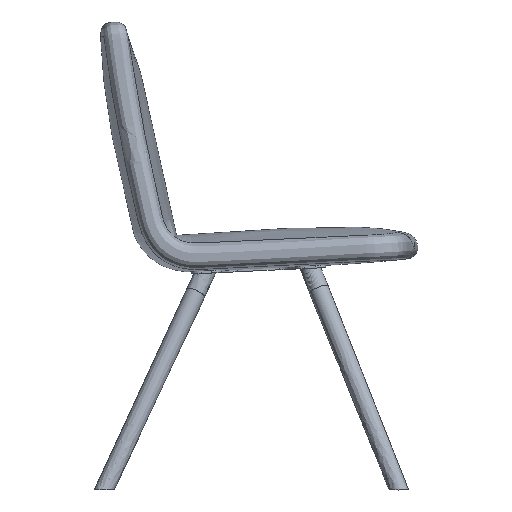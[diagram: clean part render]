
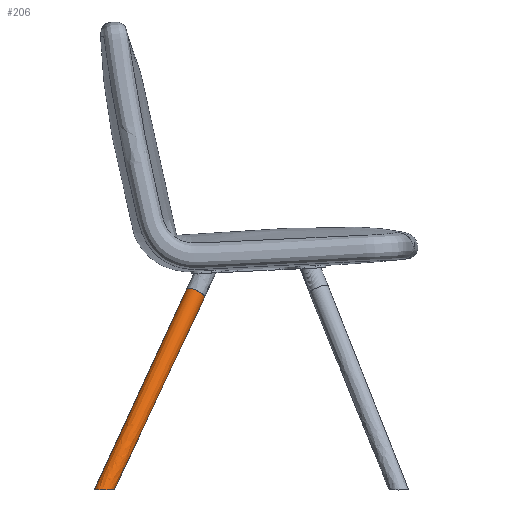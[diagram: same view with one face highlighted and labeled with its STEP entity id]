
A CAD part, left-side view. The second image highlights one B-rep face of the part: STEP entity #206.
In plain terms, the highlighted free-form (B-spline) face has degree [3, 2] with [4, 7] control points.
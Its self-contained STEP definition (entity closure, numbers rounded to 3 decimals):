
#34=(
BOUNDED_CURVE()
B_SPLINE_CURVE(2,(#5012,#5013,#5014,#5015,#5016,#5017,#5018),
 .UNSPECIFIED.,.F.,.F.)
B_SPLINE_CURVE_WITH_KNOTS((3,2,2,3),(0.,10.536,38.025,
65.514),.UNSPECIFIED.)
CURVE()
GEOMETRIC_REPRESENTATION_ITEM()
RATIONAL_B_SPLINE_CURVE((1.,0.956,1.,0.707,1.,0.707,
1.))
REPRESENTATION_ITEM('')
);
#35=(
BOUNDED_CURVE()
B_SPLINE_CURVE(3,(#5019,#5020,#5021,#5022),.UNSPECIFIED.,.F.,.F.)
B_SPLINE_CURVE_WITH_KNOTS((4,4),(28.477,418.11),
 .UNSPECIFIED.)
CURVE()
GEOMETRIC_REPRESENTATION_ITEM()
RATIONAL_B_SPLINE_CURVE((1.,1.,1.,1.))
REPRESENTATION_ITEM('')
);
#36=(
BOUNDED_CURVE()
B_SPLINE_CURVE(3,(#5023,#5024,#5025,#5026),.UNSPECIFIED.,.F.,.F.)
B_SPLINE_CURVE_WITH_KNOTS((4,4),(12.341,418.11),
 .UNSPECIFIED.)
CURVE()
GEOMETRIC_REPRESENTATION_ITEM()
RATIONAL_B_SPLINE_CURVE((1.,1.,1.,1.))
REPRESENTATION_ITEM('')
);
#142=(
BOUNDED_SURFACE()
B_SPLINE_SURFACE(3,2,((#4960,#4961,#4962,#4963,#4964,#4965,#4966),(#4967,
#4968,#4969,#4970,#4971,#4972,#4973),(#4974,#4975,#4976,#4977,#4978,#4979,
#4980),(#4981,#4982,#4983,#4984,#4985,#4986,#4987)),.UNSPECIFIED.,.F.,.F.,
 .F.)
B_SPLINE_SURFACE_WITH_KNOTS((4,4),(3,2,2,3),(0.,418.11),(0.,10.536,
38.025,65.514),.UNSPECIFIED.)
GEOMETRIC_REPRESENTATION_ITEM()
RATIONAL_B_SPLINE_SURFACE(((0.862,0.888,1.,0.707,
1.,0.707,1.),(0.862,0.888,1.,0.707,
1.,0.707,1.),(0.862,0.888,1.,0.707,
1.,0.707,1.),(0.862,0.888,1.,0.707,
1.,0.707,1.)))
REPRESENTATION_ITEM('')
SURFACE()
);
#206=ADVANCED_FACE('',(#261),#142,.T.);
#261=FACE_OUTER_BOUND('',#316,.T.);
#316=EDGE_LOOP('',(#400,#401,#402,#403));
#400=ORIENTED_EDGE('',*,*,#631,.F.);
#401=ORIENTED_EDGE('',*,*,#633,.T.);
#402=ORIENTED_EDGE('',*,*,#632,.T.);
#403=ORIENTED_EDGE('',*,*,#634,.F.);
#631=EDGE_CURVE('',#798,#799,#770,.T.);
#632=EDGE_CURVE('',#797,#800,#34,.T.);
#633=EDGE_CURVE('',#798,#797,#35,.T.);
#634=EDGE_CURVE('',#799,#800,#36,.T.);
#770=B_SPLINE_CURVE_WITH_KNOTS('',3,(#4992,#4993,#4994,#4995,#4996,#4997,
#4998,#4999,#5000,#5001,#5002,#5003,#5004,#5005,#5006,#5007,#5008,#5009,
#5010,#5011),.UNSPECIFIED.,.F.,.F.,(4,3,2,2,2,3,2,2,4),(0.,9.789,
16.811,23.816,30.782,37.748,50.996,
57.62,64.24),.UNSPECIFIED.);
#797=VERTEX_POINT('',#4988);
#798=VERTEX_POINT('',#4989);
#799=VERTEX_POINT('',#4990);
#800=VERTEX_POINT('',#4991);
#4960=CARTESIAN_POINT('',(-220.842,257.038,-25.099));
#4961=CARTESIAN_POINT('',(-224.783,254.17,-25.413));
#4962=CARTESIAN_POINT('',(-229.538,253.694,-24.406));
#4963=CARTESIAN_POINT('',(-245.117,252.135,-21.106));
#4964=CARTESIAN_POINT('',(-245.14,266.644,-14.361));
#4965=CARTESIAN_POINT('',(-245.163,281.153,-7.616));
#4966=CARTESIAN_POINT('',(-229.585,282.712,-10.916));
#4967=CARTESIAN_POINT('',(-188.782,199.529,97.739));
#4968=CARTESIAN_POINT('',(-192.846,196.57,97.415));
#4969=CARTESIAN_POINT('',(-197.75,196.08,98.454));
#4970=CARTESIAN_POINT('',(-213.815,194.472,101.856));
#4971=CARTESIAN_POINT('',(-213.839,209.435,108.812));
#4972=CARTESIAN_POINT('',(-213.863,224.397,115.767));
#4973=CARTESIAN_POINT('',(-197.798,226.004,112.365));
#4974=CARTESIAN_POINT('',(-156.722,142.019,220.576));
#4975=CARTESIAN_POINT('',(-160.909,138.971,220.242));
#4976=CARTESIAN_POINT('',(-165.962,138.466,221.313));
#4977=CARTESIAN_POINT('',(-182.514,136.809,224.819));
#4978=CARTESIAN_POINT('',(-182.539,152.225,231.985));
#4979=CARTESIAN_POINT('',(-182.563,167.641,239.151));
#4980=CARTESIAN_POINT('',(-166.011,169.297,235.645));
#4981=CARTESIAN_POINT('',(-124.662,84.509,343.414));
#4982=CARTESIAN_POINT('',(-128.973,81.372,343.07));
#4983=CARTESIAN_POINT('',(-134.174,80.851,344.172));
#4984=CARTESIAN_POINT('',(-151.213,79.147,347.781));
#4985=CARTESIAN_POINT('',(-151.238,95.016,355.158));
#4986=CARTESIAN_POINT('',(-151.263,110.885,362.535));
#4987=CARTESIAN_POINT('',(-134.225,112.59,358.926));
#4988=CARTESIAN_POINT('',(-124.662,84.509,343.414));
#4989=CARTESIAN_POINT('',(-214.291,245.288,0.));
#4990=CARTESIAN_POINT('',(-226.77,277.69,0.));
#4991=CARTESIAN_POINT('',(-134.225,112.59,358.926));
#4992=CARTESIAN_POINT('',(-214.291,245.288,0.));
#4993=CARTESIAN_POINT('',(-216.856,243.283,0.));
#4994=CARTESIAN_POINT('',(-219.978,242.251,0.));
#4995=CARTESIAN_POINT('',(-223.224,242.249,0.));
#4996=CARTESIAN_POINT('',(-225.561,242.247,0.));
#4997=CARTESIAN_POINT('',(-227.863,242.778,0.));
#4998=CARTESIAN_POINT('',(-232.114,244.684,0.));
#4999=CARTESIAN_POINT('',(-234.037,246.044,0.));
#5000=CARTESIAN_POINT('',(-237.303,249.331,0.));
#5001=CARTESIAN_POINT('',(-238.644,251.249,0.));
#5002=CARTESIAN_POINT('',(-240.625,255.421,0.));
#5003=CARTESIAN_POINT('',(-241.264,257.674,0.));
#5004=CARTESIAN_POINT('',(-241.49,259.974,0.));
#5005=CARTESIAN_POINT('',(-241.915,264.287,0.));
#5006=CARTESIAN_POINT('',(-240.871,268.721,0.));
#5007=CARTESIAN_POINT('',(-236.796,273.903,0.));
#5008=CARTESIAN_POINT('',(-235.082,275.297,0.));
#5009=CARTESIAN_POINT('',(-231.123,277.209,0.));
#5010=CARTESIAN_POINT('',(-228.965,277.685,0.));
#5011=CARTESIAN_POINT('',(-226.77,277.69,0.));
#5012=CARTESIAN_POINT('',(-124.662,84.509,343.414));
#5013=CARTESIAN_POINT('',(-128.973,81.372,343.07));
#5014=CARTESIAN_POINT('',(-134.174,80.851,344.172));
#5015=CARTESIAN_POINT('',(-151.213,79.147,347.781));
#5016=CARTESIAN_POINT('',(-151.238,95.016,355.158));
#5017=CARTESIAN_POINT('',(-151.263,110.885,362.535));
#5018=CARTESIAN_POINT('',(-134.225,112.59,358.926));
#5019=CARTESIAN_POINT('',(-214.291,245.288,0.));
#5020=CARTESIAN_POINT('',(-184.415,191.695,114.471));
#5021=CARTESIAN_POINT('',(-154.538,138.102,228.943));
#5022=CARTESIAN_POINT('',(-124.662,84.509,343.414));
#5023=CARTESIAN_POINT('',(-226.77,277.69,0.));
#5024=CARTESIAN_POINT('',(-195.922,222.657,119.642));
#5025=CARTESIAN_POINT('',(-165.073,167.623,239.284));
#5026=CARTESIAN_POINT('',(-134.225,112.59,358.926));
